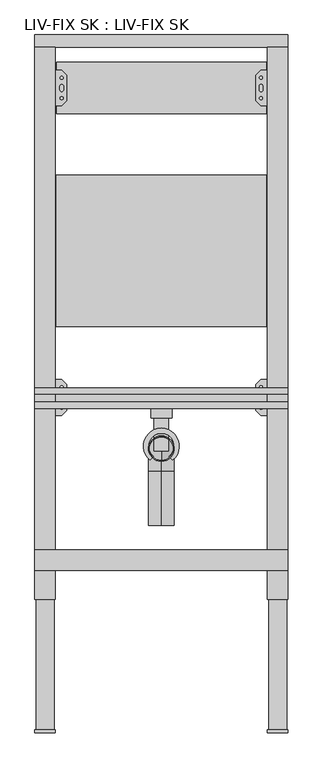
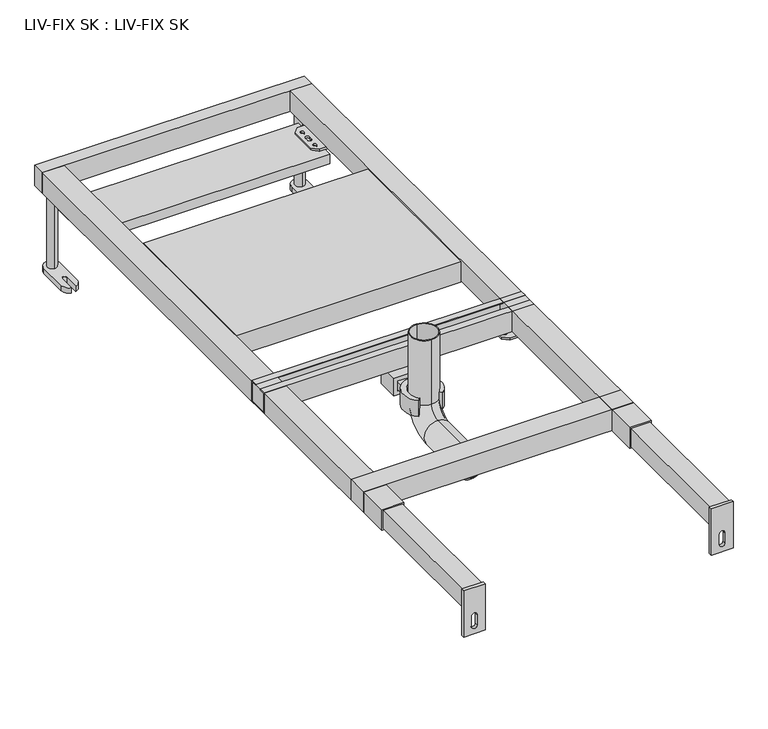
"""IFC4 building model written with IfcOpenShell, lengths in millimetres: flow terminal geometry, LIV-FIX SK : LIV-FIX SK."""

from ifc_helpers import new_model, si_unit, point, frame, frame_2d, origin, origin_with_axes, place, context, project, spatial, polyline, circle_curve, ellipse_curve, trimmed, segment, composite_curve, outline, extrude, source, transform, mapped, element, save
from ifc_brep_helpers import plane_surface, cylinder_surface, revolved_surface, advanced_brep


def liv_fix_sk_liv_fix_sk_65745e36(model_context):
    return source(origin(), model_context, "Body", "SolidModel", [
        extrude(outline(polyline([(205.5, 890.0), (205.5, 594.0), (-205.5, 594.0), (-205.5, 890.0), (205.5, 890.0)])), frame((0.0, 0.0, 160.0), z_axis=(0.0, 0.0, 1.0), x_axis=(1.0, 0.0, 0.0)), (0.0, 0.0, 1.0), 40.0),
        extrude(outline(polyline([(205.0000019, 1110.0014502), (205.0000019, 1010.0014502), (-204.9999937, 1010.0014502), (-204.9999937, 1110.0014502), (205.0000019, 1110.0014502)])), frame((0.0, 0.0, 138.0), z_axis=(0.0, 0.0, 1.0), x_axis=(1.0, 0.0, 0.0)), (0.0, 0.0, 1.0), 18.0),
        advanced_brep(
        [(-14.0, 455.0, 136.5), (-14.0, 455.0, 150.0), (14.0, 455.0, 150.0), (14.0, 455.0, 136.5), (14.0, 350.7552373, 136.5), (-14.0, 350.7552373, 136.5), (-14.0, 380.7123152, 136.5), (-15.0727332, 340.0547571, 136.5), (-22.1922786, 332.9352116, 136.5), (-14.0, 392.0780299, 136.5), (14.0, 392.0780299, 136.5), (22.1922786, 332.9352116, 136.5), (15.0727332, 340.0547571, 136.5), (14.0, 380.7123152, 136.5), (14.0, 392.0780299, 150.0), (14.0, 350.7552373, 150.0), (14.0, 380.7123152, 150.0), (-14.0, 392.0780299, 150.0), (0.0, 395.0, 150.0), (-14.0, 350.7552373, 150.0), (-14.0, 380.7123152, 150.0), (15.0727332, 340.0547571, 167.5), (22.1922786, 332.9352116, 167.5), (0.0, 395.0, 167.5), (-22.1922786, 332.9352116, 167.5), (-15.0727332, 340.0547571, 167.5)],
        [
            (0, 1),
            (1, 2),
            (2, 3),
            (3, 0),
            (4, 5),
            (5, 6),
            (6, 7, circle_curve(frame((0.0, 360.0, 136.5), z_axis=(0.0, 0.0, 1.0), x_axis=(0.0, -1.0, 0.0)), 25.0)),
            (7, 8),
            (8, 9, circle_curve(frame((0.0, 360.0, 136.5), z_axis=(0.0, 0.0, -1.0), x_axis=(0.0, -1.0, 0.0)), 35.0)),
            (9, 0),
            (3, 10),
            (10, 11, circle_curve(frame((0.0, 360.0, 136.5), z_axis=(0.0, 0.0, -1.0), x_axis=(0.0, -1.0, 0.0)), 35.0)),
            (11, 12),
            (12, 13, circle_curve(frame((0.0, 360.0, 136.5), z_axis=(0.0, 0.0, 1.0), x_axis=(0.0, -1.0, 0.0)), 25.0)),
            (13, 4),
            (2, 14),
            (14, 10),
            (15, 4),
            (13, 16),
            (16, 15),
            (1, 17),
            (17, 18, circle_curve(frame((0.0, 360.0, 150.0), z_axis=(0.0, 0.0, -1.0), x_axis=(0.0, -1.0, 0.0)), 35.0)),
            (18, 14, circle_curve(frame((0.0, 360.0, 150.0), z_axis=(0.0, 0.0, -1.0), x_axis=(0.0, -1.0, 0.0)), 35.0)),
            (19, 15),
            (16, 20, circle_curve(frame((0.0, 360.0, 150.0), z_axis=(0.0, 0.0, 1.0), x_axis=(0.0, -1.0, 0.0)), 25.0)),
            (20, 19),
            (9, 17),
            (5, 19),
            (20, 6),
            (21, 22),
            (22, 23, circle_curve(frame((0.0, 360.0, 167.5), z_axis=(0.0, 0.0, 1.0), x_axis=(0.0, -1.0, 0.0)), 35.0)),
            (23, 24, circle_curve(frame((0.0, 360.0, 167.5), z_axis=(0.0, 0.0, 1.0), x_axis=(0.0, -1.0, 0.0)), 35.0)),
            (24, 25),
            (25, 21, circle_curve(frame((0.0, 360.0, 167.5), z_axis=(0.0, 0.0, -1.0), x_axis=(0.0, -1.0, 0.0)), 25.0)),
            (25, 7),
            (12, 21),
            (24, 8),
            (23, 18),
            (22, 11),
        ],
        [
            plane_surface(frame((-14.0, 455.0, 136.5), z_axis=(0.0, 1.0, 0.0), x_axis=(0.0, 0.0, 1.0))),
            plane_surface(frame((14.0, 455.0, 136.5), z_axis=(0.0, 0.0, -1.0), x_axis=(0.0, -1.0, 0.0))),
            plane_surface(frame((14.0, 455.0, 150.0), z_axis=(1.0, 0.0, 0.0), x_axis=(0.0, -1.0, 0.0))),
            plane_surface(frame((-14.0, 455.0, 150.0), z_axis=(0.0, 0.0, 1.0), x_axis=(0.0, -1.0, 0.0))),
            plane_surface(frame((-14.0, 455.0, 136.5), z_axis=(-1.0, 0.0, 0.0), x_axis=(0.0, -1.0, 0.0))),
            plane_surface(frame((0.0, 335.0, 167.5), z_axis=(0.0, 0.0, 1.0), x_axis=(-1.0, 0.0, 0.0))),
            revolved_surface(polyline([(0.0, 335.0, 167.5), (0.0, 335.0, 136.5)]), (0.0, 360.0, 167.5), (0.0, 0.0, 1.0)),
            plane_surface(frame((-15.0727332, 340.0547571, 136.5), z_axis=(0.7071067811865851, -0.70710678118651, 0.0), x_axis=(0.0, 0.0, 1.0))),
            cylinder_surface(frame((0.0, 360.0, 167.5), z_axis=(0.0, 0.0, -1.0), x_axis=(0.0, -1.0, 0.0)), 35.0),
            plane_surface(frame((22.1922786, 332.9352116, 136.5), z_axis=(-0.7071067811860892, -0.7071067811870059, 0.0), x_axis=(0.0, 0.0, 1.0))),
            plane_surface(frame((-14.0, 350.7552373, 136.5), z_axis=(0.0, -1.0, 0.0), x_axis=(0.0, 0.0, -1.0))),
        ],
        [
            (0, [[1, 2, 3, 4]]),
            (1, [[5, 6, 7, 8, 9, 10, -4, 11, 12, 13, 14, 15]]),
            (2, [[-3, 16, 17, -11]]),
            (2, [[18, -15, 19, 20]]),
            (3, [[-2, 21, 22, 23, -16]]),
            (3, [[24, -20, 25, 26]]),
            (4, [[-1, -10, 27, -21]]),
            (4, [[28, -26, 29, -6]]),
            (5, [[30, 31, 32, 33, 34]]),
            (6, [[-34, 35, -7, -29, -25, -19, -14, 36]]),
            (7, [[-33, 37, -8, -35]]),
            (8, [[-32, 38, -22, -27, -9, -37]]),
            (8, [[-31, 39, -12, -17, -23, -38]]),
            (9, [[-30, -36, -13, -39]]),
            (10, [[-5, -18, -24, -28]]),
        ],
    ),
        extrude(outline(polyline([(433.9204604, 200.0), (446.4049771, 200.0), (446.4049771, 198.5), (435.4204604, 198.5), (435.4204604, 161.5), (472.4204604, 161.5), (472.4204604, 198.5), (461.4359437, 198.5), (461.4359437, 200.0), (473.9204604, 200.0), (473.9204604, 160.0), (433.9204604, 160.0), (433.9204604, 200.0)])), frame((-247.5, 0.0, 0.0), z_axis=(1.0, 0.0, 0.0), x_axis=(0.0, 1.0, 0.0)), (0.0, 0.0, 1.0), 495.0),
        extrude(outline(polyline([(195.0000019, 1025.0), (185.0000019, 1035.0), (185.0000019, 1085.0), (195.0000019, 1095.0), (245.0000019, 1095.0), (245.0000019, 1025.0), (195.0000019, 1025.0)]), holes=[composite_curve([segment(trimmed(circle_curve(frame_2d((230.0000019, 1060.0)), 4.5), [point((230.0000019, 1055.5))], [point((230.0000019, 1064.5))], True, "CARTESIAN"), True, "CONTINUOUS"), segment(trimmed(circle_curve(frame_2d((230.0000019, 1060.0)), 4.5), [point((230.0000019, 1064.5))], [point((230.0000019, 1055.5))], True, "CARTESIAN"), True, "CONTINUOUS")], self_intersect=False), composite_curve([segment(trimmed(circle_curve(frame_2d((230.0000019, 1080.0)), 4.5), [point((230.0000019, 1075.5))], [point((230.0000019, 1084.5))], True, "CARTESIAN"), True, "CONTINUOUS"), segment(trimmed(circle_curve(frame_2d((230.0000019, 1080.0)), 4.5), [point((230.0000019, 1084.5))], [point((230.0000019, 1075.5))], True, "CARTESIAN"), True, "CONTINUOUS")], self_intersect=False), composite_curve([segment(trimmed(circle_curve(frame_2d((230.0000019, 1040.0)), 4.5), [point((230.0000019, 1035.5))], [point((230.0000019, 1044.5))], True, "CARTESIAN"), True, "CONTINUOUS"), segment(trimmed(circle_curve(frame_2d((230.0000019, 1040.0)), 4.5), [point((230.0000019, 1044.5))], [point((230.0000019, 1035.5))], True, "CARTESIAN"), True, "CONTINUOUS")], self_intersect=False), composite_curve([segment(trimmed(circle_curve(frame_2d((195.0000019, 1080.0)), 2.9795218), [point((195.0000019, 1077.0204782))], [point((195.0000019, 1082.9795218))], True, "CARTESIAN"), True, "CONTINUOUS"), segment(trimmed(circle_curve(frame_2d((195.0000019, 1080.0)), 2.9795218), [point((195.0000019, 1082.9795218))], [point((195.0000019, 1077.0204782))], True, "CARTESIAN"), True, "CONTINUOUS")], self_intersect=False), composite_curve([segment(trimmed(circle_curve(frame_2d((195.0000019, 1040.0)), 2.9795218), [point((195.0000019, 1037.0204782))], [point((195.0000019, 1042.9795218))], True, "CARTESIAN"), True, "CONTINUOUS"), segment(trimmed(circle_curve(frame_2d((195.0000019, 1040.0)), 2.9795218), [point((195.0000019, 1042.9795218))], [point((195.0000019, 1037.0204782))], True, "CARTESIAN"), True, "CONTINUOUS")], self_intersect=False), composite_curve([segment(trimmed(circle_curve(frame_2d((195.0000019, 1063.5)), 3.5), [point((198.5000019, 1063.5))], [point((191.5000019, 1063.5))], True, "CARTESIAN"), True, "CONTINUOUS"), segment(polyline([(191.5000019, 1063.5), (191.5000019, 1056.5)]), True, "CONTINUOUS"), segment(trimmed(circle_curve(frame_2d((195.0000019, 1056.5)), 3.5), [point((191.5000019, 1056.5))], [point((198.5000019, 1056.5))], True, "CARTESIAN"), True, "CONTINUOUS"), segment(polyline([(198.5000019, 1056.5), (198.5000019, 1063.5)]), True, "CONTINUOUS")], self_intersect=False)]), frame((0.0, 0.0, 156.0), z_axis=(0.0, 0.0, 1.0), x_axis=(1.0, 0.0, 0.0)), (0.0, 0.0, 1.0), 4.0),
        extrude(outline(polyline([(-194.9999937, 1025.0), (-244.9999937, 1025.0), (-244.9999937, 1095.0), (-194.9999937, 1095.0), (-184.9999937, 1085.0), (-184.9999937, 1035.0), (-194.9999937, 1025.0)]), holes=[composite_curve([segment(trimmed(circle_curve(frame_2d((-229.9999937, 1060.0)), 4.5), [point((-229.9999937, 1055.5))], [point((-229.9999937, 1064.5))], True, "CARTESIAN"), True, "CONTINUOUS"), segment(trimmed(circle_curve(frame_2d((-229.9999937, 1060.0)), 4.5), [point((-229.9999937, 1064.5))], [point((-229.9999937, 1055.5))], True, "CARTESIAN"), True, "CONTINUOUS")], self_intersect=False), composite_curve([segment(trimmed(circle_curve(frame_2d((-229.9999937, 1080.0)), 4.5), [point((-229.9999937, 1075.5))], [point((-229.9999937, 1084.5))], True, "CARTESIAN"), True, "CONTINUOUS"), segment(trimmed(circle_curve(frame_2d((-229.9999937, 1080.0)), 4.5), [point((-229.9999937, 1084.5))], [point((-229.9999937, 1075.5))], True, "CARTESIAN"), True, "CONTINUOUS")], self_intersect=False), composite_curve([segment(trimmed(circle_curve(frame_2d((-229.9999937, 1040.0)), 4.5), [point((-229.9999937, 1035.5))], [point((-229.9999937, 1044.5))], True, "CARTESIAN"), True, "CONTINUOUS"), segment(trimmed(circle_curve(frame_2d((-229.9999937, 1040.0)), 4.5), [point((-229.9999937, 1044.5))], [point((-229.9999937, 1035.5))], True, "CARTESIAN"), True, "CONTINUOUS")], self_intersect=False), composite_curve([segment(trimmed(circle_curve(frame_2d((-194.9999937, 1080.0)), 2.9795218), [point((-194.9999937, 1077.0204782))], [point((-194.9999937, 1082.9795218))], True, "CARTESIAN"), True, "CONTINUOUS"), segment(trimmed(circle_curve(frame_2d((-194.9999937, 1080.0)), 2.9795218), [point((-194.9999937, 1082.9795218))], [point((-194.9999937, 1077.0204782))], True, "CARTESIAN"), True, "CONTINUOUS")], self_intersect=False), composite_curve([segment(trimmed(circle_curve(frame_2d((-194.9999937, 1040.0)), 2.9795218), [point((-194.9999937, 1037.0204782))], [point((-194.9999937, 1042.9795218))], True, "CARTESIAN"), True, "CONTINUOUS"), segment(trimmed(circle_curve(frame_2d((-194.9999937, 1040.0)), 2.9795218), [point((-194.9999937, 1042.9795218))], [point((-194.9999937, 1037.0204782))], True, "CARTESIAN"), True, "CONTINUOUS")], self_intersect=False), composite_curve([segment(polyline([(-198.4999937, 1063.5), (-198.4999937, 1056.5)]), True, "CONTINUOUS"), segment(trimmed(circle_curve(frame_2d((-194.9999937, 1056.5)), 3.5), [point((-198.4999937, 1056.5))], [point((-191.4999937, 1056.5))], True, "CARTESIAN"), True, "CONTINUOUS"), segment(polyline([(-191.4999937, 1056.5), (-191.4999937, 1063.5)]), True, "CONTINUOUS"), segment(trimmed(circle_curve(frame_2d((-194.9999937, 1063.5)), 3.5), [point((-191.4999937, 1063.5))], [point((-198.4999937, 1063.5))], True, "CARTESIAN"), True, "CONTINUOUS")], self_intersect=False)]), frame((0.0, 0.0, 156.0), z_axis=(0.0, 0.0, 1.0), x_axis=(1.0, 0.0, 0.0)), (0.0, 0.0, 1.0), 4.0),
        advanced_brep(
        [(0.0, 205.0, 85.0), (0.0, 205.0, 135.0), (0.0, 205.0, 87.0), (0.0, 205.0, 133.0), (0.0, 310.0, 85.0), (0.0, 310.0, 135.0), (0.0, 380.0, 280.0), (0.0, 330.0, 280.0), (0.0, 378.0, 280.0), (0.0, 332.0, 280.0), (0.0, 330.0, 155.0), (0.0, 380.0, 155.0), (0.0, 310.0, 87.0), (0.0, 310.0, 133.0), (0.0, 332.0, 155.0), (0.0, 378.0, 155.0)],
        [
            (0, 1, circle_curve(frame((0.0, 205.0, 110.0), z_axis=(0.0, -1.0, 0.0), x_axis=(0.0, 0.0, 1.0)), 25.0)),
            (1, 0, circle_curve(frame((0.0, 205.0, 110.0), z_axis=(0.0, -1.0, 0.0), x_axis=(0.0, 0.0, 1.0)), 25.0)),
            (2, 3, circle_curve(frame((0.0, 205.0, 110.0), z_axis=(0.0, 1.0, 0.0), x_axis=(0.0, 0.0, 1.0)), 23.0)),
            (3, 2, circle_curve(frame((0.0, 205.0, 110.0), z_axis=(0.0, 1.0, 0.0), x_axis=(0.0, 0.0, 1.0)), 23.0)),
            (0, 4),
            (4, 5, circle_curve(frame((0.0, 310.0, 110.0), z_axis=(0.0, -1.0, 0.0), x_axis=(0.0, 0.0, 1.0)), 25.0)),
            (5, 1),
            (5, 4, circle_curve(frame((0.0, 310.0, 110.0), z_axis=(0.0, -1.0, 0.0), x_axis=(0.0, 0.0, 1.0)), 25.0)),
            (6, 7, circle_curve(frame((0.0, 355.0, 280.0), z_axis=(0.0, 0.0, 1.0), x_axis=(0.0, -1.0, 0.0)), 25.0)),
            (7, 6, circle_curve(frame((0.0, 355.0, 280.0), z_axis=(0.0, 0.0, 1.0), x_axis=(0.0, -1.0, 0.0)), 25.0)),
            (8, 9, circle_curve(frame((0.0, 355.0, 280.0), z_axis=(0.0, 0.0, -1.0), x_axis=(0.0, -1.0, 0.0)), 23.0)),
            (9, 8, circle_curve(frame((0.0, 355.0, 280.0), z_axis=(0.0, 0.0, -1.0), x_axis=(0.0, -1.0, 0.0)), 23.0)),
            (10, 11, circle_curve(frame((0.0, 355.0, 155.0), z_axis=(0.0, 0.0, 1.0), x_axis=(0.0, -1.0, 0.0)), 25.0)),
            (11, 6),
            (7, 10),
            (11, 10, circle_curve(frame((0.0, 355.0, 155.0), z_axis=(0.0, 0.0, 1.0), x_axis=(0.0, -1.0, 0.0)), 25.0)),
            (10, 5, circle_curve(frame((0.0, 310.0, 155.0), z_axis=(-1.0, 0.0, 0.0), x_axis=(0.0, 0.0, -1.0)), 20.0)),
            (4, 11, circle_curve(frame((0.0, 310.0, 155.0), z_axis=(1.0, 0.0, 0.0), x_axis=(0.0, 0.0, -1.0)), 70.0)),
            (2, 12),
            (12, 13, circle_curve(frame((0.0, 310.0, 110.0), z_axis=(0.0, 1.0, 0.0), x_axis=(0.0, 0.0, 1.0)), 23.0)),
            (13, 3),
            (13, 12, circle_curve(frame((0.0, 310.0, 110.0), z_axis=(0.0, 1.0, 0.0), x_axis=(0.0, 0.0, 1.0)), 23.0)),
            (14, 13, circle_curve(frame((0.0, 310.0, 155.0), z_axis=(-1.0, 0.0, 0.0), x_axis=(0.0, 0.0, -1.0)), 22.0)),
            (12, 15, circle_curve(frame((0.0, 310.0, 155.0), z_axis=(1.0, 0.0, 0.0), x_axis=(0.0, 0.0, -1.0)), 68.0)),
            (15, 14, circle_curve(frame((0.0, 355.0, 155.0), z_axis=(0.0, 0.0, 1.0), x_axis=(0.0, -1.0, 0.0)), 23.0)),
            (14, 15, circle_curve(frame((0.0, 355.0, 155.0), z_axis=(0.0, 0.0, 1.0), x_axis=(0.0, -1.0, 0.0)), 23.0)),
            (15, 8),
            (9, 14),
        ],
        [
            plane_surface(frame((0.0, 205.0, 110.0), z_axis=(0.0, -1.0, 0.0), x_axis=(1.0, 0.0, 0.0))),
            cylinder_surface(frame((0.0, 205.0, 110.0), z_axis=(0.0, -1.0, 0.0), x_axis=(0.0, 0.0, 1.0)), 25.0),
            plane_surface(frame((0.0, 355.0, 280.0), z_axis=(0.0, 0.0, 1.0), x_axis=(1.0, 0.0, 0.0))),
            cylinder_surface(frame((0.0, 355.0, 155.0), z_axis=(0.0, 0.0, -1.0), x_axis=(0.0, -1.0, 0.0)), 25.0),
            revolved_surface(trimmed(ellipse_curve(frame((0.0, 310.0, 110.0), z_axis=(0.0, -1.0, 0.0), x_axis=(0.0, 0.0, 1.0)), 25.0, 25.0), [point((0.0, 310.0, 85.0))], [point((0.0, 310.0, 135.0))], True, "CARTESIAN"), (0.0, 310.0, 155.0), (1.0, 0.0, 0.0)),
            revolved_surface(trimmed(ellipse_curve(frame((0.0, 310.0, 110.0), z_axis=(0.0, -1.0, 0.0), x_axis=(0.0, 0.0, 1.0)), 25.0, 25.0), [point((0.0, 310.0, 135.0))], [point((0.0, 310.0, 85.0))], True, "CARTESIAN"), (0.0, 310.0, 155.0), (1.0, 0.0, 0.0)),
            revolved_surface(polyline([(0.0, 310.0, 133.0), (0.0, 205.0, 133.0)]), (0.0, 205.0, 110.0), (0.0, 1.0, 0.0)),
            revolved_surface(trimmed(ellipse_curve(frame((0.0, 310.0, 110.0), z_axis=(0.0, 1.0, 0.0), x_axis=(0.0, 0.0, 1.0)), 23.0, 23.0), [point((0.0, 310.0, 87.0))], [point((0.0, 310.0, 133.0))], True, "CARTESIAN"), (0.0, 310.0, 155.0), (1.0, 0.0, 0.0)),
            revolved_surface(trimmed(ellipse_curve(frame((0.0, 310.0, 110.0), z_axis=(0.0, 1.0, 0.0), x_axis=(0.0, 0.0, 1.0)), 23.0, 23.0), [point((0.0, 310.0, 133.0))], [point((0.0, 310.0, 87.0))], True, "CARTESIAN"), (0.0, 310.0, 155.0), (1.0, 0.0, 0.0)),
            revolved_surface(polyline([(0.0, 332.0, 280.0), (0.0, 332.0, 155.0)]), (0.0, 355.0, 155.0), (0.0, 0.0, 1.0)),
        ],
        [
            (0, [[1, 2], [3, 4]]),
            (1, [[-1, 5, 6, 7]]),
            (1, [[-2, -7, 8, -5]]),
            (2, [[9, 10], [11, 12]]),
            (3, [[13, 14, -10, 15]]),
            (3, [[16, -15, -9, -14]]),
            (4, [[17, -6, 18, -13]]),
            (5, [[-18, -8, -17, -16]]),
            (6, [[-3, 19, 20, 21]]),
            (6, [[-4, -21, 22, -19]]),
            (7, [[23, -20, 24, 25]]),
            (8, [[-24, -22, -23, 26]]),
            (9, [[-25, 27, -12, 28]]),
            (9, [[-26, -28, -11, -27]]),
        ],
    ),
        extrude(outline(polyline([(160.0, 20.9285173), (160.0, -20.5714827), (126.5, -20.5714827), (126.5, 20.9285173), (160.0, 20.9285173)]), holes=[polyline([(152.5, 13.75), (134.0, 13.75), (134.0, -13.75), (152.5, -13.75), (152.5, 13.75)])]), frame((0.0, 415.0, 0.0), z_axis=(0.0, 1.0, 0.0), x_axis=(0.0, 0.0, 1.0)), (0.0, 0.0, 1.0), 40.0),
        extrude(outline(polyline([(195.0000092, 420.0012968), (185.0000092, 430.0012968), (185.0000092, 480.0012968), (195.0000092, 490.0012968), (245.0000092, 490.0012968), (245.0000092, 420.0012968), (195.0000092, 420.0012968)]), holes=[composite_curve([segment(trimmed(circle_curve(frame_2d((230.0000092, 455.0012968)), 4.5), [point((230.0000092, 450.5012968))], [point((230.0000092, 459.5012968))], True, "CARTESIAN"), True, "CONTINUOUS"), segment(trimmed(circle_curve(frame_2d((230.0000092, 455.0012968)), 4.5), [point((230.0000092, 459.5012968))], [point((230.0000092, 450.5012968))], True, "CARTESIAN"), True, "CONTINUOUS")], self_intersect=False), composite_curve([segment(trimmed(circle_curve(frame_2d((230.0000092, 475.0012968)), 4.5), [point((230.0000092, 470.5012968))], [point((230.0000092, 479.5012968))], True, "CARTESIAN"), True, "CONTINUOUS"), segment(trimmed(circle_curve(frame_2d((230.0000092, 475.0012968)), 4.5), [point((230.0000092, 479.5012968))], [point((230.0000092, 470.5012968))], True, "CARTESIAN"), True, "CONTINUOUS")], self_intersect=False), composite_curve([segment(trimmed(circle_curve(frame_2d((230.0000092, 435.0012968)), 4.5), [point((230.0000092, 430.5012968))], [point((230.0000092, 439.5012968))], True, "CARTESIAN"), True, "CONTINUOUS"), segment(trimmed(circle_curve(frame_2d((230.0000092, 435.0012968)), 4.5), [point((230.0000092, 439.5012968))], [point((230.0000092, 430.5012968))], True, "CARTESIAN"), True, "CONTINUOUS")], self_intersect=False), composite_curve([segment(trimmed(circle_curve(frame_2d((195.0000092, 475.0012968)), 2.9795218), [point((195.0000092, 472.0217751))], [point((195.0000092, 477.9808186))], True, "CARTESIAN"), True, "CONTINUOUS"), segment(trimmed(circle_curve(frame_2d((195.0000092, 475.0012968)), 2.9795218), [point((195.0000092, 477.9808186))], [point((195.0000092, 472.0217751))], True, "CARTESIAN"), True, "CONTINUOUS")], self_intersect=False), composite_curve([segment(trimmed(circle_curve(frame_2d((195.0000092, 435.0012968)), 2.9795218), [point((195.0000092, 432.0217751))], [point((195.0000092, 437.9808186))], True, "CARTESIAN"), True, "CONTINUOUS"), segment(trimmed(circle_curve(frame_2d((195.0000092, 435.0012968)), 2.9795218), [point((195.0000092, 437.9808186))], [point((195.0000092, 432.0217751))], True, "CARTESIAN"), True, "CONTINUOUS")], self_intersect=False), composite_curve([segment(trimmed(circle_curve(frame_2d((195.0000092, 458.5012968)), 3.5), [point((198.5000092, 458.5012968))], [point((191.5000092, 458.5012968))], True, "CARTESIAN"), True, "CONTINUOUS"), segment(polyline([(191.5000092, 458.5012968), (191.5000092, 451.5012968)]), True, "CONTINUOUS"), segment(trimmed(circle_curve(frame_2d((195.0000092, 451.5012968)), 3.5), [point((191.5000092, 451.5012968))], [point((198.5000092, 451.5012968))], True, "CARTESIAN"), True, "CONTINUOUS"), segment(polyline([(198.5000092, 451.5012968), (198.5000092, 458.5012968)]), True, "CONTINUOUS")], self_intersect=False)]), frame((0.0, 0.0, 156.0), z_axis=(0.0, 0.0, 1.0), x_axis=(1.0, 0.0, 0.0)), (0.0, 0.0, 1.0), 4.0),
        extrude(outline(polyline([(-195.0004227, 420.0012968), (-245.0004227, 420.0012968), (-245.0004227, 490.0012968), (-195.0004227, 490.0012968), (-185.0004227, 480.0012968), (-185.0004227, 430.0012968), (-195.0004227, 420.0012968)]), holes=[composite_curve([segment(trimmed(circle_curve(frame_2d((-230.0004227, 455.0012968)), 4.5), [point((-230.0004227, 450.5012968))], [point((-230.0004227, 459.5012968))], True, "CARTESIAN"), True, "CONTINUOUS"), segment(trimmed(circle_curve(frame_2d((-230.0004227, 455.0012968)), 4.5), [point((-230.0004227, 459.5012968))], [point((-230.0004227, 450.5012968))], True, "CARTESIAN"), True, "CONTINUOUS")], self_intersect=False), composite_curve([segment(trimmed(circle_curve(frame_2d((-230.0004227, 475.0012968)), 4.5), [point((-230.0004227, 470.5012968))], [point((-230.0004227, 479.5012968))], True, "CARTESIAN"), True, "CONTINUOUS"), segment(trimmed(circle_curve(frame_2d((-230.0004227, 475.0012968)), 4.5), [point((-230.0004227, 479.5012968))], [point((-230.0004227, 470.5012968))], True, "CARTESIAN"), True, "CONTINUOUS")], self_intersect=False), composite_curve([segment(trimmed(circle_curve(frame_2d((-230.0004227, 435.0012968)), 4.5), [point((-230.0004227, 430.5012968))], [point((-230.0004227, 439.5012968))], True, "CARTESIAN"), True, "CONTINUOUS"), segment(trimmed(circle_curve(frame_2d((-230.0004227, 435.0012968)), 4.5), [point((-230.0004227, 439.5012968))], [point((-230.0004227, 430.5012968))], True, "CARTESIAN"), True, "CONTINUOUS")], self_intersect=False), composite_curve([segment(trimmed(circle_curve(frame_2d((-195.0004227, 475.0012968)), 2.9795218), [point((-195.0004227, 472.0217751))], [point((-195.0004227, 477.9808186))], True, "CARTESIAN"), True, "CONTINUOUS"), segment(trimmed(circle_curve(frame_2d((-195.0004227, 475.0012968)), 2.9795218), [point((-195.0004227, 477.9808186))], [point((-195.0004227, 472.0217751))], True, "CARTESIAN"), True, "CONTINUOUS")], self_intersect=False), composite_curve([segment(trimmed(circle_curve(frame_2d((-195.0004227, 435.0012968)), 2.9795218), [point((-195.0004227, 432.0217751))], [point((-195.0004227, 437.9808186))], True, "CARTESIAN"), True, "CONTINUOUS"), segment(trimmed(circle_curve(frame_2d((-195.0004227, 435.0012968)), 2.9795218), [point((-195.0004227, 437.9808186))], [point((-195.0004227, 432.0217751))], True, "CARTESIAN"), True, "CONTINUOUS")], self_intersect=False), composite_curve([segment(polyline([(-198.5004227, 458.5012968), (-198.5004227, 451.5012968)]), True, "CONTINUOUS"), segment(trimmed(circle_curve(frame_2d((-195.0004227, 451.5012968)), 3.5), [point((-198.5004227, 451.5012968))], [point((-191.5004227, 451.5012968))], True, "CARTESIAN"), True, "CONTINUOUS"), segment(polyline([(-191.5004227, 451.5012968), (-191.5004227, 458.5012968)]), True, "CONTINUOUS"), segment(trimmed(circle_curve(frame_2d((-195.0004227, 458.5012968)), 3.5), [point((-191.5004227, 458.5012968))], [point((-198.5004227, 458.5012968))], True, "CARTESIAN"), True, "CONTINUOUS")], self_intersect=False)]), frame((0.0, 0.0, 156.0), z_axis=(0.0, 0.0, 1.0), x_axis=(1.0, 0.0, 0.0)), (0.0, 0.0, 1.0), 4.0),
        extrude(outline(composite_curve([segment(trimmed(circle_curve(frame_2d((-227.5, 1143.726646)), 8.75), [point((-227.5, 1134.976646))], [point((-227.5, 1152.476646))], False, "CARTESIAN"), True, "CONTINUOUS"), segment(trimmed(circle_curve(frame_2d((-227.5, 1143.726646)), 8.75), [point((-227.5, 1152.476646))], [point((-227.5, 1134.976646))], False, "CARTESIAN"), True, "CONTINUOUS")], self_intersect=False)), frame((0.0, 0.0, 10.0), z_axis=(0.0, 0.0, 1.0), x_axis=(1.0, 0.0, 0.0)), (0.0, 0.0, 1.0), 150.0),
        extrude(outline(composite_curve([segment(trimmed(circle_curve(frame_2d((227.5, 1143.7220827)), 8.75), [point((227.5, 1134.9720827))], [point((227.5, 1152.4720827))], False, "CARTESIAN"), True, "CONTINUOUS"), segment(trimmed(circle_curve(frame_2d((227.5, 1143.7220827)), 8.75), [point((227.5, 1152.4720827))], [point((227.5, 1134.9720827))], False, "CARTESIAN"), True, "CONTINUOUS")], self_intersect=False)), frame((0.0, 0.0, 10.0), z_axis=(0.0, 0.0, 1.0), x_axis=(1.0, 0.0, 0.0)), (0.0, 0.0, 1.0), 150.0),
        extrude(outline(composite_curve([segment(trimmed(circle_curve(frame_2d((-227.5, 1143.726646)), 15.0), [point((-242.5, 1143.726646))], [point((-212.5, 1143.726646))], False, "CARTESIAN"), True, "CONTINUOUS"), segment(polyline([(-212.5, 1143.726646), (-212.5, 1089.7267563)]), True, "CONTINUOUS"), segment(trimmed(circle_curve(frame_2d((-227.5, 1089.7267563)), 15.0), [point((-212.5, 1089.7267563))], [point((-223.5, 1075.269924))], False, "CARTESIAN"), True, "CONTINUOUS"), segment(polyline([(-223.5, 1075.269924), (-223.5, 1104.1835886)]), True, "CONTINUOUS"), segment(trimmed(circle_curve(frame_2d((-227.5, 1104.1835886)), 4.0), [point((-223.5, 1104.1835886))], [point((-231.5, 1104.1835886))], True, "CARTESIAN"), True, "CONTINUOUS"), segment(polyline([(-231.5, 1104.1835886), (-231.5, 1075.269924)]), True, "CONTINUOUS"), segment(trimmed(circle_curve(frame_2d((-227.5, 1089.7267563)), 15.0), [point((-231.5, 1075.269924))], [point((-242.5, 1089.7267563))], False, "CARTESIAN"), True, "CONTINUOUS"), segment(polyline([(-242.5, 1089.7267563), (-242.5, 1143.726646)]), True, "CONTINUOUS")], self_intersect=False)), origin_with_axes(), (0.0, 0.0, 1.0), 10.0),
        extrude(outline(composite_curve([segment(polyline([(242.5, 1143.7220827), (242.5, 1089.722193)]), True, "CONTINUOUS"), segment(trimmed(circle_curve(frame_2d((227.5, 1089.722193)), 15.0), [point((242.5, 1089.722193))], [point((231.5, 1075.2653607))], False, "CARTESIAN"), True, "CONTINUOUS"), segment(polyline([(231.5, 1075.2653607), (231.5, 1104.1790253)]), True, "CONTINUOUS"), segment(trimmed(circle_curve(frame_2d((227.5, 1104.1790253)), 4.0), [point((231.5, 1104.1790253))], [point((223.5, 1104.1790253))], True, "CARTESIAN"), True, "CONTINUOUS"), segment(polyline([(223.5, 1104.1790253), (223.5, 1075.2653607)]), True, "CONTINUOUS"), segment(trimmed(circle_curve(frame_2d((227.5, 1089.722193)), 15.0), [point((223.5, 1075.2653607))], [point((212.5, 1089.722193))], False, "CARTESIAN"), True, "CONTINUOUS"), segment(polyline([(212.5, 1089.722193), (212.5, 1143.7220827)]), True, "CONTINUOUS"), segment(trimmed(circle_curve(frame_2d((227.5, 1143.7220827)), 15.0), [point((212.5, 1143.7220827))], [point((242.5, 1143.7220827))], False, "CARTESIAN"), True, "CONTINUOUS")], self_intersect=False)), origin_with_axes(), (0.0, 0.0, 1.0), 10.0),
        extrude(outline(polyline([(-245.0, 349.0), (-210.0, 349.0), (-210.0, -194.0), (-245.0, -194.0), (-245.0, 349.0)])), frame((0.0, 0.0, 162.5), z_axis=(0.0, 0.0, 1.0), x_axis=(1.0, 0.0, 0.0)), (0.0, 0.0, 1.0), 35.0),
        extrude(outline(polyline([(209.9841074, 349.0), (244.9841074, 349.0), (244.9841074, -194.0), (209.9841074, -194.0), (209.9841074, 349.0)])), frame((0.0, 0.0, 162.5), z_axis=(0.0, 0.0, 1.0), x_axis=(1.0, 0.0, 0.0)), (0.0, 0.0, 1.0), 35.0),
        extrude(outline(polyline([(200.0, 247.5), (200.0, 207.5), (110.0, 207.5), (110.0, 247.5), (200.0, 247.5)]), holes=[composite_curve([segment(trimmed(circle_curve(frame_2d((145.0, 227.5)), 5.0), [point((145.0, 222.5))], [point((145.0, 232.5))], True, "CARTESIAN"), True, "CONTINUOUS"), segment(polyline([(145.0, 232.5), (125.0, 232.5)]), True, "CONTINUOUS"), segment(trimmed(circle_curve(frame_2d((125.0, 227.5)), 5.0), [point((125.0, 232.5))], [point((125.0, 222.5))], True, "CARTESIAN"), True, "CONTINUOUS"), segment(polyline([(125.0, 222.5), (145.0, 222.5)]), True, "CONTINUOUS")], self_intersect=False)]), frame((0.0, -200.0, 0.0), z_axis=(0.0, 1.0, 0.0), x_axis=(0.0, 0.0, 1.0)), (0.0, 0.0, 1.0), 6.0),
        extrude(outline(polyline([(200.0, -207.5), (200.0, -247.5), (110.0, -247.5), (110.0, -207.5), (200.0, -207.5)]), holes=[composite_curve([segment(trimmed(circle_curve(frame_2d((145.0, -227.5)), 5.0), [point((145.0, -232.5))], [point((145.0, -222.5))], True, "CARTESIAN"), True, "CONTINUOUS"), segment(polyline([(145.0, -222.5), (125.0, -222.5)]), True, "CONTINUOUS"), segment(trimmed(circle_curve(frame_2d((125.0, -227.5)), 5.0), [point((125.0, -222.5))], [point((125.0, -232.5))], True, "CARTESIAN"), True, "CONTINUOUS"), segment(polyline([(125.0, -232.5), (145.0, -232.5)]), True, "CONTINUOUS")], self_intersect=False)]), frame((0.0, -200.0, 0.0), z_axis=(0.0, 1.0, 0.0), x_axis=(0.0, 0.0, 1.0)), (0.0, 0.0, 1.0), 6.0),
        extrude(outline(polyline([(247.5, 157.0), (247.5, 117.0), (-247.5, 117.0), (-247.5, 157.0), (247.5, 157.0)])), frame((0.0, 0.0, 160.0), z_axis=(0.0, 0.0, 1.0), x_axis=(1.0, 0.0, 0.0)), (0.0, 0.0, 1.0), 40.0),
        extrude(outline(polyline([(-207.5, 60.0), (-247.5, 60.0), (-247.5, 1140.0), (-207.5, 1140.0), (-207.5, 60.0)])), frame((0.0, 0.0, 160.0), z_axis=(0.0, 0.0, 1.0), x_axis=(1.0, 0.0, 0.0)), (0.0, 0.0, 1.0), 40.0),
        extrude(outline(polyline([(247.5, 60.0), (207.5, 60.0), (207.5, 1140.0), (247.5, 1140.0), (247.5, 60.0)])), frame((0.0, 0.0, 160.0), z_axis=(0.0, 0.0, 1.0), x_axis=(1.0, 0.0, 0.0)), (0.0, 0.0, 1.0), 40.0),
        extrude(outline(polyline([(247.5, 1163.7245147), (247.5, 1140.0), (-247.5, 1140.0), (-247.5, 1163.7245147), (247.5, 1163.7245147)])), frame((0.0, 0.0, 160.0), z_axis=(0.0, 0.0, 1.0), x_axis=(1.0, 0.0, 0.0)), (0.0, 0.0, 1.0), 40.0),
    ])


if __name__ == "__main__":
    model = new_model("IFC4")
    model_context = context("Model", 3, world=origin())
    ifc_project = project(units=[si_unit("LENGTHUNIT", "METRE", prefix="MILLI")], contexts=[model_context])
    site = spatial("IfcSite", under=ifc_project)
    building = spatial("IfcBuilding", under=site)
    placement = place(None, origin())
    liv_fix_sk_liv_fix_sk_shape = liv_fix_sk_liv_fix_sk_65745e36(model_context)
    element("IfcFlowTerminal", 1, ObjectType="LIV-FIX SK : LIV-FIX SK", at=placement, inside=building, context=model_context, shape_type="MappedRepresentation", body=[
        mapped(liv_fix_sk_liv_fix_sk_shape, transform((0.0, 0.0, 0.0), x_axis=(1.0, 0.0, 0.0), y_axis=(0.0, 1.0, 0.0), z_axis=(0.0, 0.0, 1.0))),
    ])
    save(model, "model.ifc")
